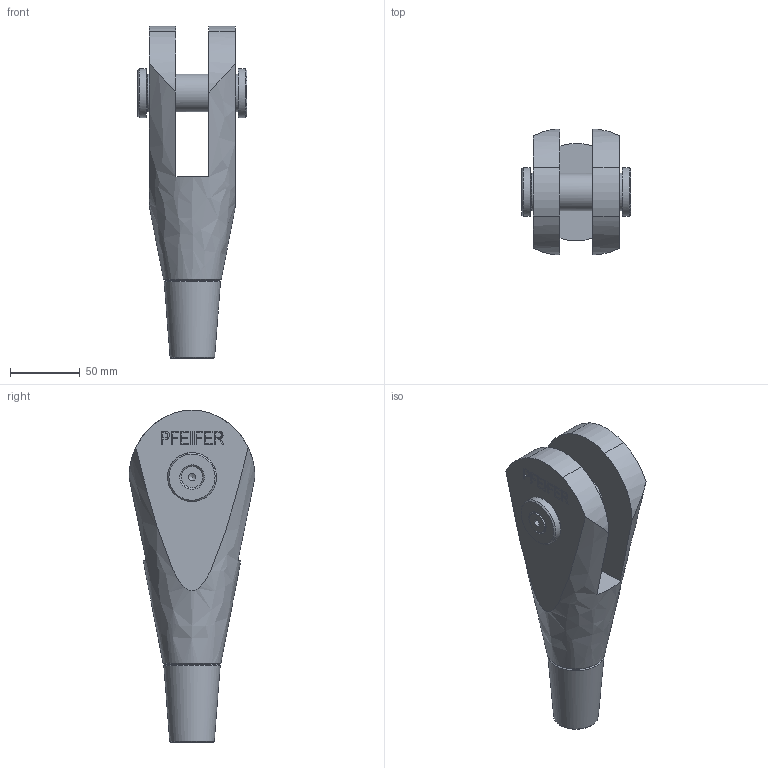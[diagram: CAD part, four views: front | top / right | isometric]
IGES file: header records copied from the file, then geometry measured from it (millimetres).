
Global section: file name: 520-027-GAK; native system: Autodesk Inventor 2016; preprocessor: unknown; author: Administrator; date: 20200625.074709; units: centimetre
Bounding box: 78.51 x 90.08 x 237.5 mm (x, y, z)
Volume: 513778 mm3; surface area: 77001.3 mm2
Topology: 2 solids, 3 shells, 187 faces, 491 edges, 328 vertices
Faces by surface type: bspline 187
